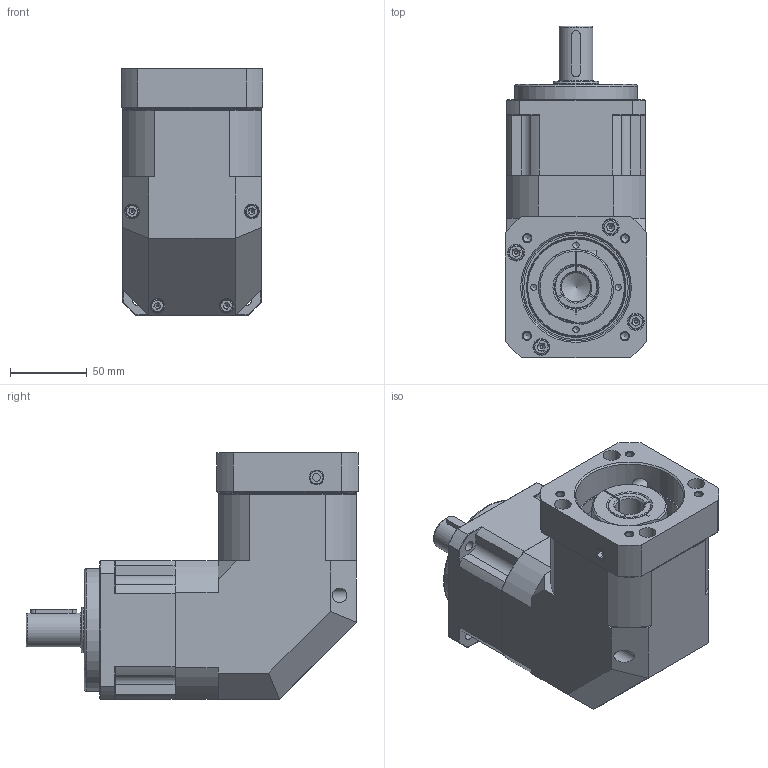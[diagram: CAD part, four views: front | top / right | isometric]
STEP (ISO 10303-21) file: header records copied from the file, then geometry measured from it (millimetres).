
FILE_DESCRIPTION((''),'2;1');
FILE_NAME('C:\Work\감속기 카다로그 도면\ATG Reducer(홈페이지)\PBL-H\STP\PBL90-H-1.stp','2014-05-27T14:50:07',('young'),(''),'Autodesk Inventor 2012','Autodesk Inventor 2012','');
FILE_SCHEMA(('AUTOMOTIVE_DESIGN { 1 0 10303 214 1 1 1 1 }'));
Length unit declared in the file: millimetre
Products named in the file (1): PBL90-H-1
Bounding box: 92 x 216.1 x 160.3 mm (x, y, z)
Volume: 1281569.2 mm3; surface area: 215176.3 mm2
Topology: 21 solids, 21 shells, 665 faces, 1600 edges, 1036 vertices
Faces by surface type: plane 366, cylinder 159, cone 103, torus 19, bspline 18
Full cylindrical faces by diameter (mm): 4 x4, 4.2 x4, 5 x12, 5.1 x1, 5.5 x4, 6 x9, 6.5 x1, 6.8 x9, 8 x1, 8.433 x2, 8.5 x4, 9.5 x6, 10 x5, 11 x4, 17 x1, 19 x1, 22 x1, 28.4 x1, 29.8 x2, 30 x2, 39 x1, 43 x1, 45 x2, 47 x1, 50 x2, 55 x2, 62 x1, 63.92 x18, 65 x2, 68 x1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
Entity records: 24774 total; most frequent: CARTESIAN_POINT 10539, DIRECTION 2866, ORIENTED_EDGE 2714, EDGE_CURVE 1357, AXIS2_PLACEMENT_3D 1094, VERTEX_POINT 989, EDGE_LOOP 926, VECTOR 678
